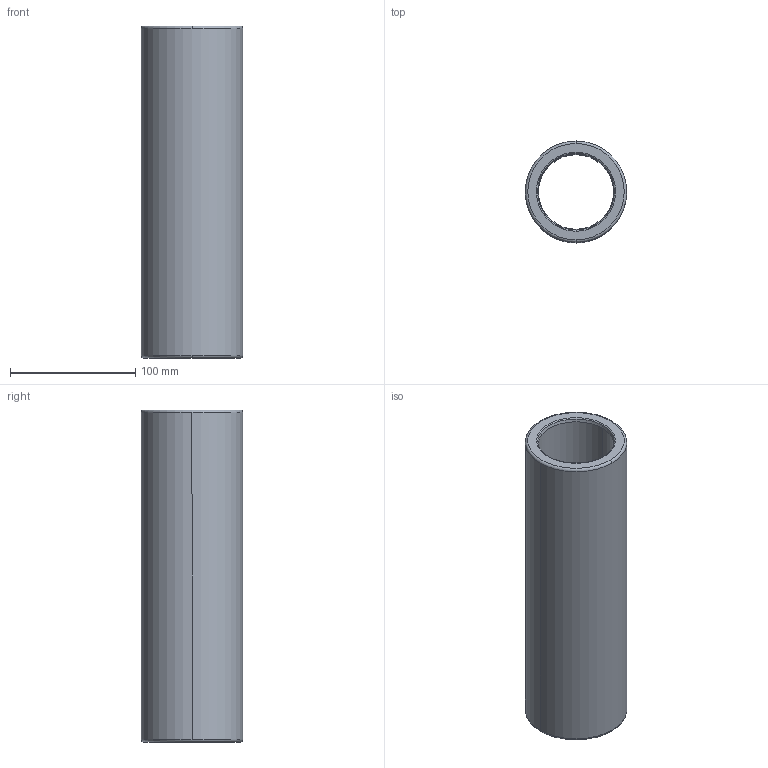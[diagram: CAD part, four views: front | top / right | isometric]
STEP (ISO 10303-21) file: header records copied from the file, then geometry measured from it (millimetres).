
FILE_DESCRIPTION((''),'2;1');
FILE_NAME('B30_048_265.stp','2009-01-12T10:55:56',(''),(''),'Mechanical Desktop 2009','Mechanical Desktop 2009',', , ');
FILE_SCHEMA(('CONFIG_CONTROL_DESIGN'));
Length unit declared in the file: millimetre
Products named in the file (2): Product; blmdl1
Assembly tree (1 placements, depth 2):
  Product
    blmdl1
Bounding box: 80.98 x 80.98 x 265 mm (x, y, z)
Volume: 615731.1 mm3; surface area: 121215.7 mm2
Topology: 1 solids, 1 shells, 18 faces, 48 edges, 32 vertices
Faces by surface type: torus 8, cylinder 4, cone 4, plane 2
Entity records: 705 total; most frequent: DIRECTION 128, CARTESIAN_POINT 100, ORIENTED_EDGE 96, AXIS2_PLACEMENT_3D 60, EDGE_CURVE 48, CIRCLE 40, VERTEX_POINT 32, EDGE_LOOP 20
